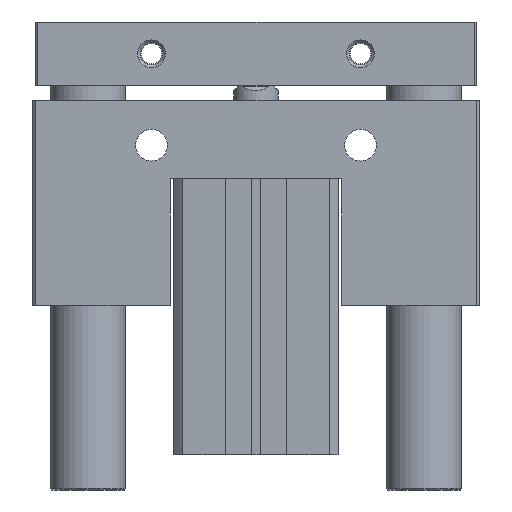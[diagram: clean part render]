
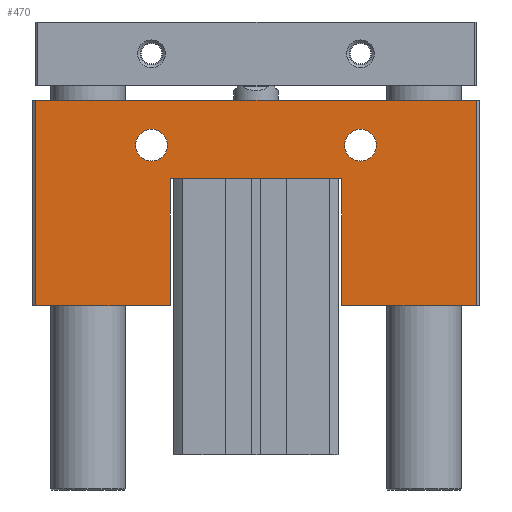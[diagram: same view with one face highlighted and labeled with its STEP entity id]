
A CAD part, front view. The second image highlights one B-rep face of the part: STEP entity #470.
In plain terms, the highlighted planar face has unit normal (0, -1, 0).
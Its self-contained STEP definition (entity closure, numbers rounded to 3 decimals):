
#199=CARTESIAN_POINT('',(-62.726,-23.62,95.));
#200=VERTEX_POINT('',#199);
#207=CARTESIAN_POINT('',(55.274,-23.62,95.));
#208=VERTEX_POINT('',#207);
#209=CARTESIAN_POINT('',(-62.726,-23.62,95.));
#210=DIRECTION('',(1.0,0.0,0.0));
#211=VECTOR('',#210,118.);
#212=LINE('',#209,#211);
#213=EDGE_CURVE('',#200,#208,#212,.T.);
#376=CARTESIAN_POINT('',(-62.726,-23.62,40.));
#377=VERTEX_POINT('',#376);
#384=CARTESIAN_POINT('',(-62.726,-23.62,40.));
#385=DIRECTION('',(0.0,0.0,1.0));
#386=VECTOR('',#385,55.);
#387=LINE('',#384,#386);
#388=EDGE_CURVE('',#377,#200,#387,.T.);
#393=CARTESIAN_POINT('',(-3.726,-23.62,69.533));
#394=DIRECTION('',(0.0,1.0,0.0));
#395=DIRECTION('',(0.0,0.0,1.0));
#396=AXIS2_PLACEMENT_3D('',#393,#394,#395);
#397=PLANE('',#396);
#398=ORIENTED_EDGE('',*,*,#388,.F.);
#399=CARTESIAN_POINT('',(-26.726,-23.62,40.));
#400=VERTEX_POINT('',#399);
#401=CARTESIAN_POINT('',(-26.726,-23.62,40.));
#402=DIRECTION('',(-1.0,0.0,0.0));
#403=VECTOR('',#402,36.);
#404=LINE('',#401,#403);
#405=EDGE_CURVE('',#400,#377,#404,.T.);
#406=ORIENTED_EDGE('',*,*,#405,.F.);
#407=CARTESIAN_POINT('',(-26.726,-23.62,74.0));
#408=VERTEX_POINT('',#407);
#409=CARTESIAN_POINT('',(-26.726,-23.62,74.0));
#410=DIRECTION('',(0.0,0.0,-1.0));
#411=VECTOR('',#410,34.);
#412=LINE('',#409,#411);
#413=EDGE_CURVE('',#408,#400,#412,.T.);
#414=ORIENTED_EDGE('',*,*,#413,.F.);
#415=CARTESIAN_POINT('',(19.274,-23.62,74.0));
#416=VERTEX_POINT('',#415);
#417=CARTESIAN_POINT('',(19.274,-23.62,74.0));
#418=DIRECTION('',(-1.0,0.0,0.0));
#419=VECTOR('',#418,46.);
#420=LINE('',#417,#419);
#421=EDGE_CURVE('',#416,#408,#420,.T.);
#422=ORIENTED_EDGE('',*,*,#421,.F.);
#423=CARTESIAN_POINT('',(19.274,-23.62,40.));
#424=VERTEX_POINT('',#423);
#425=CARTESIAN_POINT('',(19.274,-23.62,40.));
#426=DIRECTION('',(0.0,0.0,1.0));
#427=VECTOR('',#426,34.);
#428=LINE('',#425,#427);
#429=EDGE_CURVE('',#424,#416,#428,.T.);
#430=ORIENTED_EDGE('',*,*,#429,.F.);
#431=CARTESIAN_POINT('',(55.274,-23.62,40.));
#432=VERTEX_POINT('',#431);
#433=CARTESIAN_POINT('',(55.274,-23.62,40.));
#434=DIRECTION('',(-1.0,0.0,0.0));
#435=VECTOR('',#434,36.0);
#436=LINE('',#433,#435);
#437=EDGE_CURVE('',#432,#424,#436,.T.);
#438=ORIENTED_EDGE('',*,*,#437,.F.);
#439=CARTESIAN_POINT('',(55.274,-23.62,95.));
#440=DIRECTION('',(0.0,0.0,-1.0));
#441=VECTOR('',#440,55.);
#442=LINE('',#439,#441);
#443=EDGE_CURVE('',#208,#432,#442,.T.);
#444=ORIENTED_EDGE('',*,*,#443,.F.);
#445=ORIENTED_EDGE('',*,*,#213,.F.);
#446=EDGE_LOOP('',(#398,#406,#414,#422,#430,#438,#444,#445));
#447=FACE_OUTER_BOUND('',#446,.T.);
#448=CARTESIAN_POINT('',(-35.976,-23.62,83.));
#449=VERTEX_POINT('',#448);
#450=CARTESIAN_POINT('',(-31.726,-23.62,83.));
#451=DIRECTION('',(0.0,1.0,0.0));
#452=DIRECTION('',(1.0,0.0,0.0));
#453=AXIS2_PLACEMENT_3D('',#450,#451,#452);
#454=CIRCLE('',#453,4.25);
#455=EDGE_CURVE('',#449,#449,#454,.T.);
#456=ORIENTED_EDGE('',*,*,#455,.T.);
#457=EDGE_LOOP('',(#456));
#458=FACE_BOUND('',#457,.T.);
#459=CARTESIAN_POINT('',(20.024,-23.62,83.));
#460=VERTEX_POINT('',#459);
#461=CARTESIAN_POINT('',(24.274,-23.62,83.));
#462=DIRECTION('',(0.0,1.0,0.0));
#463=DIRECTION('',(1.0,0.0,0.0));
#464=AXIS2_PLACEMENT_3D('',#461,#462,#463);
#465=CIRCLE('',#464,4.25);
#466=EDGE_CURVE('',#460,#460,#465,.T.);
#467=ORIENTED_EDGE('',*,*,#466,.T.);
#468=EDGE_LOOP('',(#467));
#469=FACE_BOUND('',#468,.T.);
#470=ADVANCED_FACE('',(#447,#458,#469),#397,.F.);
